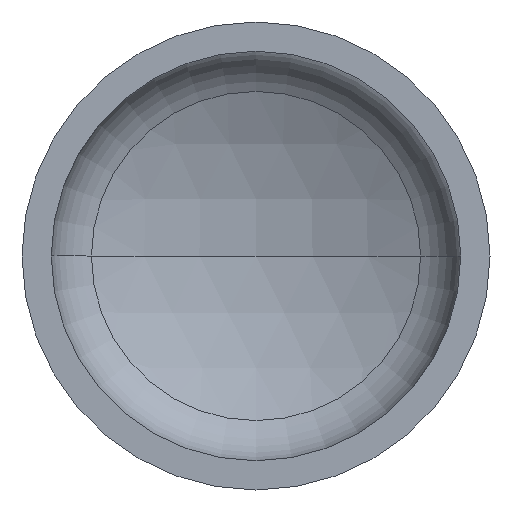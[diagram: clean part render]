
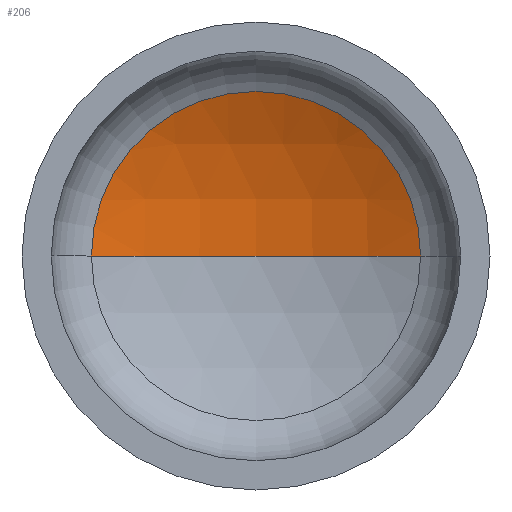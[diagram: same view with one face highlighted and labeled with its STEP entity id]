
A CAD part, front view. The second image highlights one B-rep face of the part: STEP entity #206.
In plain terms, the highlighted spherical face has radius 1280 mm.
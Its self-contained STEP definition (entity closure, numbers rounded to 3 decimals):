
#11 = ORIENTED_EDGE ( 'NONE', *, *, #147, .T. ) ;
#17 = EDGE_LOOP ( 'NONE', ( #60, #52, #11 ) ) ;
#52 = ORIENTED_EDGE ( 'NONE', *, *, #158, .T. ) ;
#60 = ORIENTED_EDGE ( 'NONE', *, *, #167, .F. ) ;
#65 = DIRECTION ( 'NONE',  ( 1., 0., 0. ) ) ;
#77 = DIRECTION ( 'NONE',  ( 0., 0., 1. ) ) ;
#78 = SPHERICAL_SURFACE ( 'NONE', #248, 1280. ) ;
#79 = CARTESIAN_POINT ( 'NONE',  ( 0., -829.624, 0. ) ) ;
#82 = VERTEX_POINT ( 'NONE', #216 ) ;
#83 = AXIS2_PLACEMENT_3D ( 'NONE', #171, #169, #168 ) ;
#88 = VERTEX_POINT ( 'NONE', #218 ) ;
#103 = VERTEX_POINT ( 'NONE', #292 ) ;
#105 = DIRECTION ( 'NONE',  ( -1., 0., 0. ) ) ;
#129 = CIRCLE ( 'NONE', #83, 1280. ) ;
#131 = AXIS2_PLACEMENT_3D ( 'NONE', #79, #77, #65 ) ;
#143 = DIRECTION ( 'NONE',  ( 0., 0., -1. ) ) ;
#144 = CARTESIAN_POINT ( 'NONE',  ( 0., -829.624, 0. ) ) ;
#147 = EDGE_CURVE ( 'NONE', #82, #103, #317, .T. ) ;
#158 = EDGE_CURVE ( 'NONE', #88, #82, #129, .T. ) ;
#167 = EDGE_CURVE ( 'NONE', #88, #103, #263, .T. ) ;
#168 = DIRECTION ( 'NONE',  ( -1., 0., 0. ) ) ;
#169 = DIRECTION ( 'NONE',  ( 0., 0., -1. ) ) ;
#171 = CARTESIAN_POINT ( 'NONE',  ( 0., -829.624, 0. ) ) ;
#206 = ADVANCED_FACE ( 'NONE', ( #251 ), #78, .F. ) ;
#216 = CARTESIAN_POINT ( 'NONE',  ( 562.705, 320.056, 0. ) ) ;
#218 = CARTESIAN_POINT ( 'NONE',  ( 0., 450.376, 0. ) ) ;
#248 = AXIS2_PLACEMENT_3D ( 'NONE', #144, #143, #105 ) ;
#249 = DIRECTION ( 'NONE',  ( 1., 0., 0. ) ) ;
#251 = FACE_OUTER_BOUND ( 'NONE', #17, .T. ) ;
#263 = CIRCLE ( 'NONE', #131, 1280. ) ;
#267 = DIRECTION ( 'NONE',  ( 0., -1., 0. ) ) ;
#268 = CARTESIAN_POINT ( 'NONE',  ( 0., 320.056, 0. ) ) ;
#292 = CARTESIAN_POINT ( 'NONE',  ( -562.705, 320.056, 0. ) ) ;
#317 = CIRCLE ( 'NONE', #396, 562.705 ) ;
#396 = AXIS2_PLACEMENT_3D ( 'NONE', #268, #267, #249 ) ;
